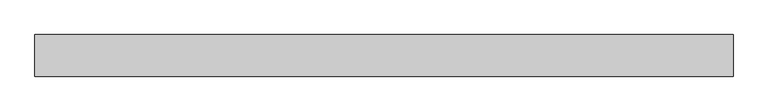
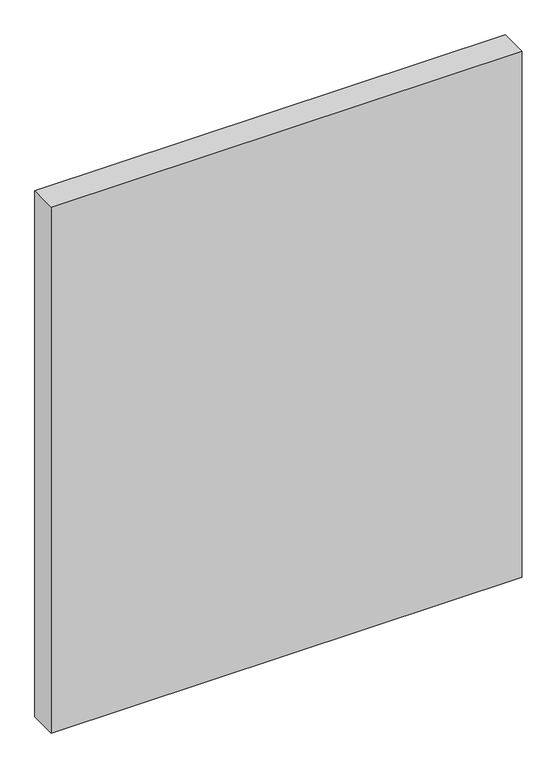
"""IFC4 building model written with IfcOpenShell, lengths in millimetres: proxy geometry, 1500x1800 Manway Cover Class D ST-02."""

from ifc_helpers import new_model, si_unit, frame, origin, place, context, project, spatial, polyline, outline, extrude, source, transform, mapped, element, save


def generic_models_1ade828a(model_context):
    return source(origin(), model_context, "Body", "SweptSolid", [
        extrude(outline(polyline([(-830.0, 0.0), (-830.0, 100.0), (830.0, 100.0), (830.0, 0.0), (-830.0, 0.0)])), frame((0.0, 0.0, -980.0), z_axis=(0.0, 0.0, 1.0), x_axis=(1.0, 0.0, 0.0)), (0.0, 0.0, 1.0), 1960.0),
    ])


if __name__ == "__main__":
    model = new_model("IFC4")
    model_context = context("Model", 3, world=origin())
    ifc_project = project(units=[si_unit("LENGTHUNIT", "METRE", prefix="MILLI")], contexts=[model_context])
    site = spatial("IfcSite", under=ifc_project)
    building = spatial("IfcBuilding", under=site)
    placement = place(None, origin())
    generic_models_shape = generic_models_1ade828a(model_context)
    element("IfcBuildingElementProxy", 1, Name="1500x1800 Manway Cover Class D ST-02", ObjectType="1500x1800 Manway Cover Class D ST-02", at=placement, inside=building, context=model_context, shape_type="MappedRepresentation", body=[
        mapped(generic_models_shape, transform((0.0, 0.0, 0.0), x_axis=(1.0, 0.0, 0.0), y_axis=(0.0, 1.0, 0.0), z_axis=(0.0, 0.0, 1.0))),
    ])
    save(model, "model.ifc")
